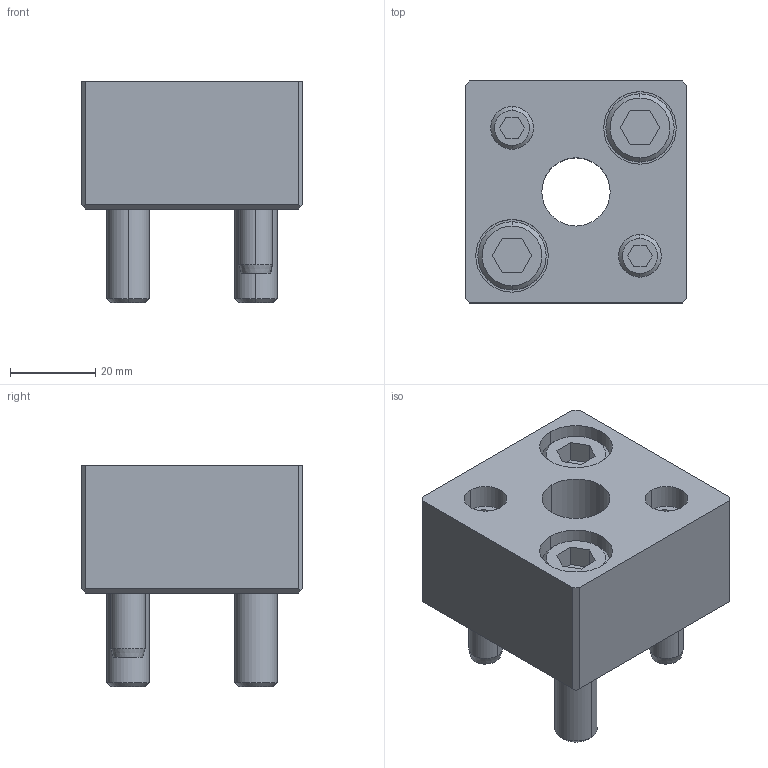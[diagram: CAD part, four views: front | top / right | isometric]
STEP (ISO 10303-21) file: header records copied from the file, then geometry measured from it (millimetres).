
FILE_DESCRIPTION(/* description */ (''),/* implementation_level */ '2;1');
FILE_NAME(/* name */ '3d_mpsr16_04605_r00.stp',/* time_stamp */ '2011-01-10T14:13:28+09:00',/* author */ ('MISUMI'),/* organization */ (''),/* preprocessor_version */ 'ST-DEVELOPER v11',/* originating_system */ 'UGS - NX 5.0',/* authorisation */ '');
FILE_SCHEMA (('CONFIG_CONTROL_DESIGN'));
Length unit declared in the file: millimetre
Products named in the file (1): 3d_mpsr16_04605_r00
Bounding box: 52 x 52 x 52 mm (x, y, z)
Volume: 75230.9 mm3; surface area: 23753.1 mm2
Topology: 7 solids, 7 shells, 139 faces, 306 edges, 196 vertices
Faces by surface type: plane 67, cylinder 46, cone 26
Entity records: 3950 total; most frequent: DIRECTION 698, CARTESIAN_POINT 684, ORIENTED_EDGE 612, EDGE_CURVE 306, AXIS2_PLACEMENT_3D 258, VERTEX_POINT 196, LINE 182, VECTOR 182
